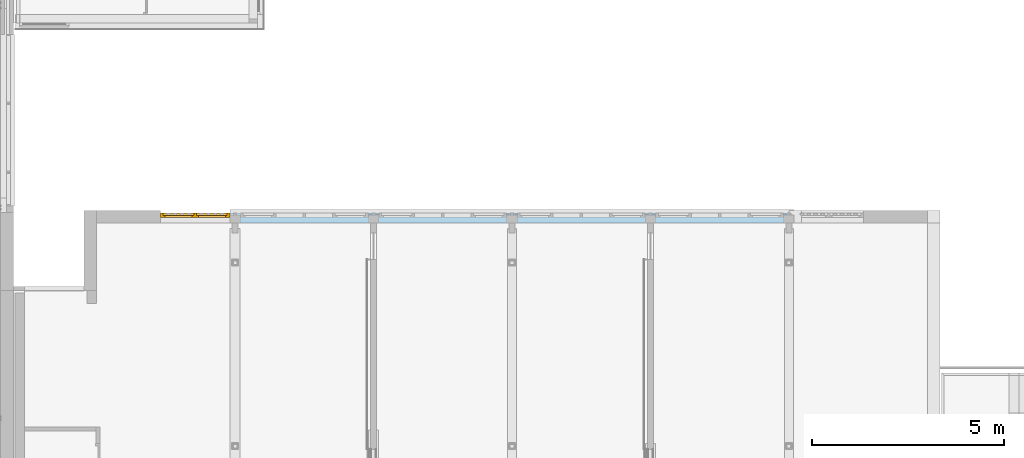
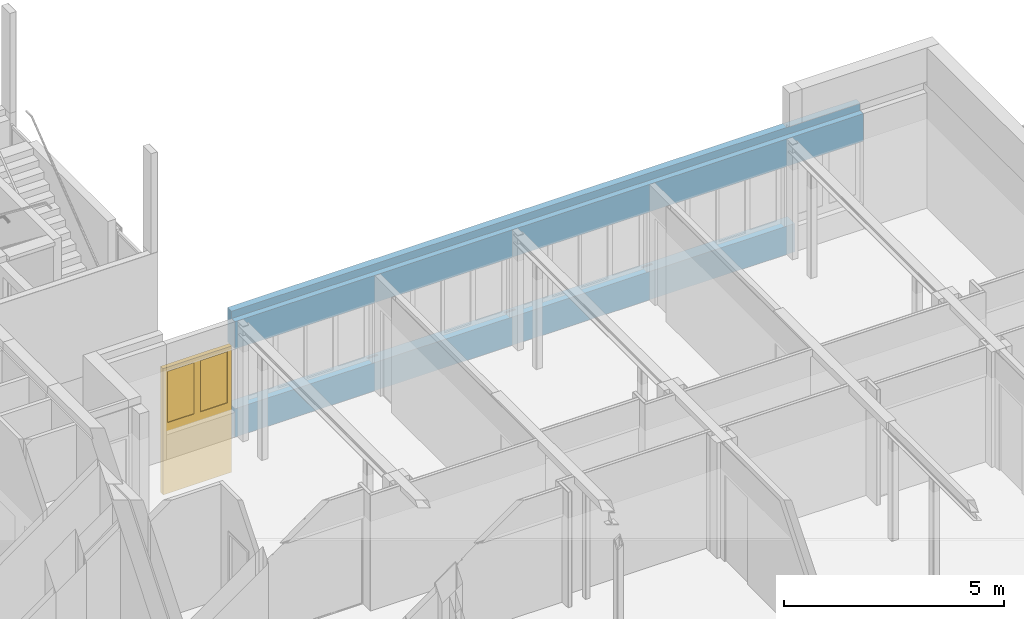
# One storey, part 43 of 117: 1 window, 6 openings, plus 1 element that does not belong to this part.
"""IFC2X3 building model written with IfcOpenShell, lengths in millimetres."""

from ifc_helpers import new_model, entity, si_unit, converted_unit, derived_unit, money_unit, direction, frame, origin_with_axes, place, context, subcontext, project, spatial, open_shell, faceted_brep, surface_model, material, type_object, element, fill, save


model = new_model("IFC2X3")

# Units and contexts
model_context = context("Model", 3, precision=0.01, world=origin_with_axes(), true_north=direction((0.0, 1.0)))
body_context = subcontext(model_context, "Body", "Model", "MODEL_VIEW")
ifc_project = project(units=[si_unit("LENGTHUNIT", "METRE", prefix="MILLI"), si_unit("AREAUNIT", "SQUARE_METRE"), si_unit("VOLUMEUNIT", "CUBIC_METRE"), converted_unit("PLANEANGLEUNIT", "DEGREE", entity("IfcPlaneAngleMeasure", 0.0174532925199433), si_unit("PLANEANGLEUNIT", "RADIAN"), dimensions=[0, 0, 0, 0, 0, 0, 0]), money_unit("EUR"), converted_unit("TIMEUNIT", "Year", entity("IfcTimeMeasure", 31557600.0), si_unit("TIMEUNIT", "SECOND"), dimensions=[0, 0, 1, 0, 0, 0, 0]), si_unit("MASSUNIT", "GRAM", prefix="KILO"), si_unit("THERMODYNAMICTEMPERATUREUNIT", "DEGREE_CELSIUS"), si_unit("LUMINOUSINTENSITYUNIT", "LUMEN"), si_unit("ENERGYUNIT", "JOULE", prefix="MEGA"), derived_unit("THERMALCONDUCTANCEUNIT", [(si_unit("POWERUNIT", "WATT"), 1), (si_unit("LENGTHUNIT", "METRE"), -1), (si_unit("THERMODYNAMICTEMPERATUREUNIT", "KELVIN"), -1)]), derived_unit("SPECIFICHEATCAPACITYUNIT", [(si_unit("ENERGYUNIT", "JOULE"), 1), (si_unit("MASSUNIT", "GRAM", prefix="KILO"), -1), (si_unit("THERMODYNAMICTEMPERATUREUNIT", "KELVIN"), -1)]), derived_unit("MASSDENSITYUNIT", [(si_unit("MASSUNIT", "GRAM", prefix="KILO"), 1), (si_unit("VOLUMEUNIT", "CUBIC_METRE"), -1)])], contexts=[model_context])

# Site, building, storey
site_placement = place(None, origin_with_axes())
site = spatial("IfcSite", under=ifc_project, at=site_placement, Name="Site", CompositionType="ELEMENT")
building_placement = place(site_placement, origin_with_axes())
building = spatial("IfcBuilding", under=site, at=building_placement, Name="Naam gebouw", CompositionType="ELEMENT")
storey_placement = place(building_placement, frame((0.0, 0.0, 4150.0), z_axis=(0.0, 0.0, 1.0), x_axis=(1.0, 0.0, 0.0)))
storey = spatial("IfcBuildingStorey", under=building, at=storey_placement, Name="1e verdieping N", CompositionType="ELEMENT", Elevation=4150.0)

# Wall, openings, window
ifc_material = material(Name="ALG - CONSTRUCTIEF")
wall_type = type_object("IfcWallType", Name="ALG - CONSTRUCTIEF 330", PredefinedType="NOTDEFINED")
wall_placement = place(storey_placement, frame((52337.49999999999, 27505.91242510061, -99.99999999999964), z_axis=(0.0, 0.0, 1.0), x_axis=(-1.0, 0.0, 0.0)))
wall = element("IfcWall", 1, at=wall_placement, inside=storey, type_object=wall_type, material=ifc_material, Name="_Wand-x", context=body_context, shape_type="Brep", body=[
    faceted_brep([(1799.999999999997, -216.0000000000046, 883.0000000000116), (1799.999999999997, -259.999999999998, 883.0000000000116), (2075.00000000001, -259.999999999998, 883.0000000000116), (2075.00000000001, -216.0000000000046, 883.0000000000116), (1799.999999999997, 0.0, 883.0000000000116), (1799.999999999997, 0.0, 786.5000000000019), (1799.999999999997, -146.0000000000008, 786.5000000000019), (1799.999999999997, -145.9999999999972, 99.99999999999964), (1799.999999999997, -145.9999999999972, 0.0), (1799.999999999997, -259.999999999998, 0.0), (1799.999999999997, -329.9999999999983, 0.0), (1799.999999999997, -329.9999999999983, 883.0000000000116), (16475.0, -329.9999999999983, 883.0000000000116), (16475.0, -259.999999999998, 883.0000000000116), (16200.0, -259.999999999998, 883.0000000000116), (16200.0, -216.0000000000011, 883.0000000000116), (16474.99999999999, -216.0000000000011, 883.0000000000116), (16474.99999999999, 0.0, 883.0000000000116), (5675.000000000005, -259.999999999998, 883.0000000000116), (5399.999999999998, -259.999999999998, 883.0000000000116), (5399.999999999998, -216.0000000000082, 883.0000000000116), (5675.000000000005, -216.0000000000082, 882.9999999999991), (9275.000000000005, -259.9999999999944, 883.0000000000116), (9000.0, -259.9999999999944, 883.0000000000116), (9000.0, -216.0000000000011, 882.9999999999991), (9275.000000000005, -216.0000000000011, 882.9999999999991), (12875.00000000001, -259.999999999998, 883.0000000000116), (12599.99999999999, -259.999999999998, 883.0000000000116), (12599.99999999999, -216.0000000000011, 883.0000000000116), (12875.00000000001, -216.0000000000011, 883.0000000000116), (16475.0, 0.0, 786.5000000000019), (16475.0, 0.0, 99.99999999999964), (1799.999999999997, 0.0, 99.99999999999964), (16475.0, -145.9999999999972, 99.99999999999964), (16475.0, -145.9999999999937, 0.0), (16475.0, -329.9999999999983, 0.0), (16475.0, -145.9999999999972, 786.5000000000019)], [[[0, 1, 2, 3]], [[1, 0, 4, 5, 6, 7, 8, 9, 10, 11]], [[4, 0, 3, 2, 1, 11, 12, 13, 14, 15, 16, 17], [18, 19, 20, 21], [22, 23, 24, 25], [26, 27, 28, 29]], [[5, 4, 17, 30, 31, 32]], [[6, 5, 32, 7]], [[8, 7, 33, 34]], [[9, 8, 34, 35, 10]], [[10, 35, 12, 11]], [[16, 13, 12, 35, 34, 33, 36, 30, 17]], [[14, 13, 16, 15]], [[19, 18, 21, 20]], [[23, 22, 25, 24]], [[27, 26, 29, 28]], [[36, 33, 31, 30]], [[7, 32, 31, 33]]]),
    faceted_brep([(0.0, 0.0, 2539.999999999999), (0.0, -259.999999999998, 2539.999999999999), (0.0, -329.9999999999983, 2539.999999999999), (0.0, -329.9999999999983, 3500.0), (0.0, -145.5905537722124, 3500.0), (0.0, -145.5905537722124, 3300.0), (0.0, 0.0, 3300.0), (1799.999999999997, 0.0, 2539.999999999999), (16474.99999999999, 0.0, 2539.999999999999), (16475.0, -145.9999999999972, 2539.999999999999), (16474.99999999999, -216.0000000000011, 2539.999999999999), (16200.0, -216.0000000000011, 2539.999999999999), (16200.0, -259.999999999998, 2539.999999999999), (16475.0, -259.999999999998, 2539.999999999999), (16475.0, -329.9999999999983, 2539.999999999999), (5399.999999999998, -216.0000000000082, 2539.999999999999), (5399.999999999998, -259.999999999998, 2539.999999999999), (5675.000000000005, -259.999999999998, 2539.999999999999), (5675.000000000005, -216.0000000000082, 2539.999999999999), (9000.0, -259.9999999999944, 2539.999999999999), (9275.000000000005, -259.9999999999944, 2539.999999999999), (9275.000000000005, -216.0000000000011, 2539.999999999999), (9000.0, -216.0000000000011, 2539.999999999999), (12599.99999999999, -259.999999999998, 2539.999999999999), (12875.00000000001, -259.999999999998, 2539.999999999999), (12875.00000000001, -216.0000000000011, 2539.999999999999), (12599.99999999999, -216.0000000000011, 2539.999999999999), (1799.999999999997, -216.0000000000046, 2539.999999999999), (1799.999999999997, -259.999999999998, 2539.999999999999), (2075.00000000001, -259.999999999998, 2539.999999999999), (2075.00000000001, -216.0000000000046, 2539.999999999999), (16475.0, -329.9999999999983, 3500.0), (16475.0, -146.0000000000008, 3500.0), (16475.0, -146.0000000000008, 3300.0), (16475.0, 0.0, 3300.0)], [[[0, 1, 2, 3, 4, 5, 6]], [[7, 8, 9, 10, 11, 12, 13, 14, 2, 1, 0], [15, 16, 17, 18], [19, 20, 21, 22], [23, 24, 25, 26], [27, 28, 29, 30]], [[14, 31, 3, 2]], [[4, 3, 31, 32]], [[5, 4, 32, 33]], [[6, 5, 33, 34]], [[7, 0, 6, 34, 8]], [[33, 9, 8, 34]], [[33, 32, 31, 14, 13, 10, 9]], [[13, 12, 11, 10]], [[16, 15, 18, 17]], [[20, 19, 22, 21]], [[24, 23, 26, 25]], [[28, 27, 30, 29]]]),
])
opening_1_placement = place(wall_placement, frame((3737.499999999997, 0.0, 883.0000000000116), z_axis=(0.0, 0.0, 1.0), x_axis=(1.0, 0.0, 0.0)))
element("IfcOpeningElement", 2, at=opening_1_placement, cuts=wall, Name="_Merk-038", context=body_context, shape_type="Brep", body=[
    faceted_brep([(1662.500000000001, -259.999999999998, 0.0), (1662.500000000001, -259.999999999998, 1656.999999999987), (1662.500000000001, -331.0000000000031, 1656.999999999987), (1662.500000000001, -331.0000000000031, 0.0), (1662.500000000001, 1.000000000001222, 0.0), (1662.500000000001, 1.000000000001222, 1656.999999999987), (-1937.5, -259.999999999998, 1656.999999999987), (-1937.5, -331.0000000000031, 1656.999999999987), (-1937.5, 1.000000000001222, 1656.999999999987), (-1937.5, -331.0000000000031, 0.0), (-1937.5, -259.999999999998, 0.0), (-1937.5, 1.000000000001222, 0.0)], [[[0, 1, 2, 3]], [[1, 0, 4, 5]], [[6, 7, 2, 1, 5, 8]], [[7, 9, 3, 2]], [[0, 3, 9, 10, 11, 4]], [[5, 4, 11, 8]], [[6, 10, 9, 7]], [[10, 6, 8, 11]]]),
])
opening_2_placement = place(wall_placement, frame((10937.5, 0.0, 883.0000000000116), z_axis=(0.0, 0.0, 1.0), x_axis=(1.0, 0.0, 0.0)))
element("IfcOpeningElement", 3, at=opening_2_placement, cuts=wall, Name="_Merk-038", context=body_context, shape_type="Brep", body=[
    faceted_brep([(1662.500000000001, -259.9999999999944, 0.0), (1662.500000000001, -259.9999999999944, 1656.999999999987), (1662.500000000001, -330.9999999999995, 1656.999999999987), (1662.500000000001, -330.9999999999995, 0.0), (1662.500000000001, 1.000000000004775, 0.0), (1662.500000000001, 1.000000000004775, 1656.999999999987), (-1937.5, -259.9999999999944, 1656.999999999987), (-1937.5, -330.9999999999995, 1656.999999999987), (-1937.5, 1.000000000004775, 1656.999999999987), (-1937.5, -330.9999999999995, 0.0), (-1937.5, -259.9999999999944, 0.0), (-1937.5, 1.000000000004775, 0.0)], [[[0, 1, 2, 3]], [[1, 0, 4, 5]], [[6, 7, 2, 1, 5, 8]], [[7, 9, 3, 2]], [[0, 3, 9, 10, 11, 4]], [[5, 4, 11, 8]], [[6, 10, 9, 7]], [[10, 6, 8, 11]]]),
])
opening_3_placement = place(wall_placement, frame((14537.49999999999, 0.0, 883.0000000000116), z_axis=(0.0, 0.0, 1.0), x_axis=(1.0, 0.0, 0.0)))
element("IfcOpeningElement", 4, at=opening_3_placement, cuts=wall, Name="_Merk-038", context=body_context, shape_type="Brep", body=[
    faceted_brep([(1937.5, -259.999999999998, 0.0), (1937.5, -259.999999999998, 1656.999999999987), (1937.5, -330.9999999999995, 1656.999999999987), (1937.5, -330.9999999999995, 0.0), (1937.5, 1.000000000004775, 0.0), (1937.5, 1.000000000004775, 1656.999999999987), (-1937.5, -259.999999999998, 1656.999999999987), (-1937.5, -330.9999999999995, 1656.999999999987), (-1937.5, 1.000000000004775, 1656.999999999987), (-1937.5, -330.9999999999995, 0.0), (-1937.5, -259.999999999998, 0.0), (-1937.5, 1.000000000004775, 0.0)], [[[0, 1, 2, 3]], [[1, 0, 4, 5]], [[6, 7, 2, 1, 5, 8]], [[7, 9, 3, 2]], [[0, 3, 9, 10, 11, 4]], [[5, 4, 11, 8]], [[6, 10, 9, 7]], [[10, 6, 8, 11]]]),
])
opening_4_placement = place(wall_placement, frame((7337.499999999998, 0.0, 883.0000000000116), z_axis=(0.0, 0.0, 1.0), x_axis=(1.0, 0.0, 0.0)))
element("IfcOpeningElement", 5, at=opening_4_placement, cuts=wall, Name="_Merk-038", context=body_context, shape_type="Brep", body=[
    faceted_brep([(1662.500000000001, -259.999999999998, 0.0), (1662.500000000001, -259.999999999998, 1656.999999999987), (1662.500000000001, -331.0000000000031, 1656.999999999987), (1662.500000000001, -331.0000000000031, 0.0), (1662.500000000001, 1.000000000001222, 0.0), (1662.500000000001, 1.000000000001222, 1656.999999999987), (-1937.5, -260.0000000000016, 1656.999999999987), (-1937.5, -331.0000000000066, 1656.999999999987), (-1937.5, 0.9999999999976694, 1656.999999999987), (-1937.5, -331.0000000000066, 0.0), (-1937.5, -260.0000000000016, 0.0), (-1937.5, 0.9999999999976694, 0.0)], [[[0, 1, 2, 3]], [[1, 0, 4, 5]], [[6, 7, 2, 1, 5, 8]], [[7, 9, 3, 2]], [[0, 3, 9, 10, 11, 4]], [[5, 4, 11, 8]], [[6, 10, 9, 7]], [[10, 6, 8, 11]]]),
])
opening_5_placement = place(wall_placement, frame((17375.0, 0.0, -960.0000000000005), z_axis=(0.0, 0.0, 1.0), x_axis=(1.0, 0.0, 0.0)))
opening_5 = element("IfcOpeningElement", 6, at=opening_5_placement, cuts=wall, Name="_Merk-037", context=body_context, shape_type="Brep", body=[
    faceted_brep([(899.9999999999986, -259.999999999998, 0.0), (899.9999999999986, -259.999999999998, 4500.0), (899.9999999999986, -330.9999999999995, 4500.0), (899.9999999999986, -330.9999999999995, 0.0), (899.9999999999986, 1.000000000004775, 0.0), (899.9999999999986, 1.000000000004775, 4500.0), (-899.9999999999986, -259.999999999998, 4500.0), (-899.9999999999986, -330.9999999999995, 4500.0), (-899.9999999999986, 1.000000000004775, 4500.0), (-899.9999999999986, -330.9999999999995, 0.0), (-899.9999999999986, -259.999999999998, 0.0), (-899.9999999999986, 1.000000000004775, 0.0)], [[[0, 1, 2, 3]], [[1, 0, 4, 5]], [[6, 7, 2, 1, 5, 8]], [[7, 9, 3, 2]], [[0, 3, 9, 10, 11, 4]], [[5, 4, 11, 8]], [[6, 10, 9, 7]], [[10, 6, 8, 11]]]),
])
opening_6_placement = place(wall_placement, frame((899.9999999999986, 0.0, -960.0000000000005), z_axis=(0.0, 0.0, 1.0), x_axis=(1.0, 0.0, 0.0)))
element("IfcOpeningElement", 7, at=opening_6_placement, cuts=wall, Name="_Merk-037", context=body_context, shape_type="Brep", body=[
    faceted_brep([(899.9999999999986, -259.999999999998, 0.0), (899.9999999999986, -259.999999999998, 3500.0), (899.9999999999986, -331.0000000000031, 3500.0), (899.9999999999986, -331.0000000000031, 0.0), (899.9999999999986, 1.000000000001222, 0.0), (899.9999999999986, 1.000000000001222, 3500.0), (-899.9999999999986, -259.999999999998, 3500.0), (-899.9999999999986, -331.0000000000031, 3500.0), (-899.9999999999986, 1.000000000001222, 3500.0), (-899.9999999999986, -331.0000000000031, 0.0), (-899.9999999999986, -259.999999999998, 0.0), (-899.9999999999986, 1.000000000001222, 0.0)], [[[0, 1, 2, 3]], [[1, 0, 4, 5]], [[6, 7, 2, 1, 5, 8]], [[7, 9, 3, 2]], [[0, 3, 9, 10, 11, 4]], [[5, 4, 11, 8]], [[6, 10, 9, 7]], [[10, 6, 8, 11]]]),
])
window_style = type_object("IfcWindowStyle", Name="R2 bl ol 26", ConstructionType="NOTDEFINED", OperationType="USERDEFINED", ParameterTakesPrecedence=False, Sizeable=False)
window_placement = place(opening_5_placement, frame((-899.9999999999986, 0.0, 0.0), z_axis=(0.0, 0.0, 1.0), x_axis=(1.0, 0.0, 0.0)))
window = element("IfcWindow", 8, at=window_placement, inside=storey, type_object=window_style, Name="_Merk-037", ObjectType="WINDOW", OverallHeight=3500.0, OverallWidth=1800.0, context=body_context, shape_type="SurfaceModel", body=[
    faceted_brep([(1750.0, -145.9999999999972, 3433.0), (1750.0, -199.9999999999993, 3433.0), (1732.999999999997, -199.9999999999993, 3433.0), (1732.999999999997, -259.999999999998, 3433.0), (1799.999999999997, -259.999999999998, 3433.0), (1799.999999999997, -145.9999999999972, 3433.0), (1750.0, -145.9999999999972, 1893.000000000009), (1750.0, -199.9999999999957, 1893.000000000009), (1732.999999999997, -199.9999999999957, 1910.000000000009), (1732.999999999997, -199.9999999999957, 1893.000000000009), (1732.999999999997, -259.999999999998, 1910.000000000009), (1732.999999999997, -259.999999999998, 1843.000000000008), (1732.999999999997, -259.999999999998, 66.99999999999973), (1799.999999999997, -259.999999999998, 66.99999999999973), (1799.999999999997, -145.9999999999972, 66.99999999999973), (1732.999999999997, -145.9999999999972, 66.99999999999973), (1732.999999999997, -145.9999999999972, 1843.000000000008), (1732.999999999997, -145.9999999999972, 1893.000000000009)], [[[0, 1, 2, 3, 4, 5]], [[1, 0, 6, 7]], [[8, 2, 1, 7, 9]], [[2, 8, 10, 3]], [[10, 11, 12, 13, 4, 3]], [[5, 4, 13, 14]], [[6, 0, 5, 14, 15, 16, 17]], [[6, 17, 9, 7]], [[9, 17, 16, 11, 10, 8]], [[15, 12, 11, 16]], [[14, 13, 12, 15]]]),
    faceted_brep([(67.00000000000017, -199.9999999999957, 3433.0), (49.99999999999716, -199.9999999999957, 3433.0), (49.99999999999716, -145.9999999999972, 3433.0), (0.0, -145.9999999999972, 3433.0), (0.0, -259.999999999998, 3433.0), (67.00000000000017, -259.999999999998, 3433.0), (67.00000000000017, -199.9999999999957, 1910.000000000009), (67.00000000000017, -199.9999999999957, 1893.000000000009), (49.99999999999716, -199.9999999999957, 1893.000000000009), (49.99999999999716, -145.9999999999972, 1893.000000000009), (67.00000000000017, -145.9999999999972, 1893.000000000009), (67.00000000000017, -145.9999999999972, 1843.000000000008), (67.00000000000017, -145.9999999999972, 66.99999999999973), (0.0, -145.9999999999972, 66.99999999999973), (0.0, -259.999999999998, 66.99999999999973), (67.00000000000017, -259.999999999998, 66.99999999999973), (67.00000000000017, -259.999999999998, 1843.000000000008), (67.00000000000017, -259.999999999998, 1910.000000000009)], [[[0, 1, 2, 3, 4, 5]], [[1, 0, 6, 7, 8]], [[9, 2, 1, 8]], [[9, 10, 11, 12, 13, 3, 2]], [[13, 14, 4, 3]], [[14, 15, 16, 17, 5, 4]], [[6, 0, 5, 17]], [[7, 6, 17, 16, 11, 10]], [[10, 9, 8, 7]], [[11, 16, 15, 12]], [[12, 15, 14, 13]]]),
    faceted_brep([(933.5000000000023, -199.9999999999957, 3433.0), (916.4999999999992, -199.9999999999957, 3433.0), (916.4999999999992, -145.9999999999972, 3433.0), (883.499999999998, -145.9999999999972, 3433.0), (883.499999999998, -199.9999999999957, 3433.0), (866.500000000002, -199.9999999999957, 3433.0), (866.500000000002, -259.999999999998, 3433.0), (933.5000000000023, -259.999999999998, 3433.0), (933.5000000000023, -199.9999999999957, 1910.000000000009), (933.4999999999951, -199.9999999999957, 1893.000000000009), (916.4999999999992, -199.9999999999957, 1893.000000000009), (916.4999999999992, -145.9999999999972, 1893.000000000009), (933.5000000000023, -145.9999999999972, 1893.000000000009), (933.5000000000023, -145.9999999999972, 1843.000000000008), (933.5000000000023, -145.9999999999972, 66.99999999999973), (866.500000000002, -145.9999999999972, 66.99999999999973), (866.500000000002, -145.9999999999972, 1843.000000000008), (866.500000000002, -145.9999999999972, 1893.000000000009), (883.499999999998, -145.9999999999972, 1893.000000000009), (883.499999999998, -199.9999999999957, 1893.000000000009), (866.500000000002, -199.9999999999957, 1910.000000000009), (866.500000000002, -199.9999999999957, 1893.000000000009), (866.500000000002, -259.999999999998, 1910.000000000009), (933.5000000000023, -259.999999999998, 1843.000000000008), (933.5000000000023, -259.999999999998, 1910.000000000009), (866.500000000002, -259.999999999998, 1843.000000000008), (866.500000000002, -259.999999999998, 66.99999999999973), (933.5000000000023, -259.999999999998, 66.99999999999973)], [[[0, 1, 2, 3, 4, 5, 6, 7]], [[1, 0, 8, 9, 10]], [[11, 2, 1, 10]], [[11, 12, 13, 14, 15, 16, 17, 18, 3, 2]], [[4, 3, 18, 19]], [[20, 5, 4, 19, 21]], [[5, 20, 22, 6]], [[23, 24, 7, 6, 22, 25, 26, 27]], [[8, 0, 7, 24]], [[9, 8, 24, 23, 13, 12]], [[12, 11, 10, 9]], [[13, 23, 27, 14]], [[14, 27, 26, 15]], [[15, 26, 25, 16]], [[21, 17, 16, 25, 22, 20]], [[18, 17, 21, 19]]]),
    faceted_brep([(866.500000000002, -199.9999999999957, 1910.000000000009), (67.00000000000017, -199.9999999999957, 1910.000000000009), (67.00000000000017, -259.999999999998, 1910.000000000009), (866.500000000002, -259.999999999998, 1910.000000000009), (67.00000000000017, -199.9999999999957, 1893.000000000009), (866.500000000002, -199.9999999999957, 1893.000000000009), (67.00000000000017, -145.9999999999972, 1893.000000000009), (67.00000000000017, -145.9999999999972, 1843.000000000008), (67.00000000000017, -259.999999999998, 1843.000000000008), (866.500000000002, -259.999999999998, 1843.000000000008), (866.500000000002, -145.9999999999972, 1843.000000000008), (866.500000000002, -145.9999999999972, 1893.000000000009)], [[[0, 1, 2, 3]], [[4, 1, 0, 5]], [[4, 6, 7, 8, 2, 1]], [[9, 3, 2, 8]], [[5, 0, 3, 9, 10, 11]], [[11, 6, 4, 5]], [[6, 11, 10, 7]], [[10, 9, 8, 7]]]),
    faceted_brep([(1732.999999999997, -199.9999999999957, 1910.000000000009), (933.5000000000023, -199.9999999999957, 1910.000000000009), (933.5000000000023, -259.999999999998, 1910.000000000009), (1732.999999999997, -259.999999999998, 1910.000000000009), (933.4999999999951, -199.9999999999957, 1893.000000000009), (1732.999999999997, -199.9999999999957, 1893.000000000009), (933.5000000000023, -145.9999999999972, 1893.000000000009), (933.5000000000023, -145.9999999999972, 1843.000000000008), (933.5000000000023, -259.999999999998, 1843.000000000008), (1732.999999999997, -259.999999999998, 1843.000000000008), (1732.999999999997, -145.9999999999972, 1843.000000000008), (1732.999999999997, -145.9999999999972, 1893.000000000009)], [[[0, 1, 2, 3]], [[4, 1, 0, 5]], [[4, 6, 7, 8, 2, 1]], [[2, 8, 9, 3]], [[5, 0, 3, 9, 10, 11]], [[11, 6, 4, 5]], [[6, 11, 10, 7]], [[10, 9, 8, 7]]]),
    faceted_brep([(1750.0, -145.9999999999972, 3433.0), (1750.0, -145.9999999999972, 3450.0), (916.4999999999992, -145.9999999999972, 3450.0), (916.4999999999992, -145.9999999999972, 3433.0), (883.499999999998, -145.9999999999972, 3433.0), (883.499999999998, -145.9999999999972, 3450.0), (49.99999999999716, -145.9999999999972, 3450.0), (49.99999999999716, -145.9999999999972, 3433.0), (0.0, -145.9999999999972, 3433.0), (0.0, -145.9999999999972, 3500.0), (1799.999999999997, -145.9999999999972, 3500.0), (1799.999999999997, -145.9999999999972, 3433.0), (1750.0, -199.9999999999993, 3433.0), (1750.0, -199.9999999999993, 3450.0), (916.4999999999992, -199.9999999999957, 3450.0), (916.4999999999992, -199.9999999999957, 3433.0), (933.5000000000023, -199.9999999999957, 3433.0), (933.5000000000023, -259.999999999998, 3433.0), (866.500000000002, -259.999999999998, 3433.0), (866.500000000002, -199.9999999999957, 3433.0), (883.499999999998, -199.9999999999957, 3433.0), (883.499999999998, -199.9999999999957, 3450.0), (49.99999999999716, -199.9999999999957, 3450.0), (49.99999999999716, -199.9999999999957, 3433.0), (67.00000000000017, -199.9999999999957, 3433.0), (67.00000000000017, -259.999999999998, 3433.0), (0.0, -259.999999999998, 3433.0), (0.0, -259.999999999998, 3500.0), (1799.999999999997, -259.999999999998, 3500.0), (1799.999999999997, -259.999999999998, 3433.0), (1732.999999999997, -259.999999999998, 3433.0), (1732.999999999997, -199.9999999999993, 3433.0)], [[[0, 1, 2, 3, 4, 5, 6, 7, 8, 9, 10, 11]], [[1, 0, 12, 13]], [[2, 1, 13, 14]], [[3, 2, 14, 15]], [[15, 16, 17, 18, 19, 20, 4, 3]], [[5, 4, 20, 21]], [[6, 5, 21, 22]], [[7, 6, 22, 23]], [[23, 24, 25, 26, 8, 7]], [[8, 26, 27, 9]], [[9, 27, 28, 10]], [[10, 28, 29, 11]], [[12, 0, 11, 29, 30, 31]], [[16, 15, 14, 13, 12, 31]], [[16, 31, 30, 17]], [[18, 17, 30, 29, 28, 27, 26, 25]], [[24, 19, 18, 25]], [[24, 23, 22, 21, 20, 19]]]),
    faceted_brep([(1732.999999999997, -259.999999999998, 67.00000000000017), (1799.999999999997, -259.999999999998, 67.00000000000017), (1799.999999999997, -145.9999999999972, 67.00000000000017), (1732.999999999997, -145.9999999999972, 67.00000000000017), (933.5000000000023, -259.999999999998, 67.00000000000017), (866.500000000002, -259.999999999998, 67.00000000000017), (67.00000000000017, -259.999999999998, 67.00000000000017), (0.0, -259.999999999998, 67.00000000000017), (0.0, -259.999999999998, 0.0), (1799.999999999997, -259.999999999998, 0.0), (1799.999999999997, -145.9999999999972, 0.0), (0.0, -145.9999999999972, 0.0), (0.0, -145.9999999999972, 67.00000000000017), (67.00000000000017, -145.9999999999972, 67.00000000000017), (866.500000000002, -145.9999999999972, 67.00000000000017), (933.5000000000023, -145.9999999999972, 67.00000000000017)], [[[0, 1, 2, 3]], [[0, 4, 5, 6, 7, 8, 9, 1]], [[1, 9, 10, 2]], [[3, 2, 10, 11, 12, 13, 14, 15]], [[4, 0, 3, 15]], [[5, 4, 15, 14]], [[6, 5, 14, 13]], [[7, 6, 13, 12]], [[8, 7, 12, 11]], [[9, 8, 11, 10]]]),
    faceted_brep([(1683.0, -199.9999999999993, 3383.0), (1750.0, -199.9999999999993, 3383.0), (1750.0, -145.9999999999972, 3383.0), (1683.0, -145.9999999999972, 3383.0), (1683.0, -199.9999999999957, 1960.000000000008), (1750.0, -199.9999999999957, 1960.000000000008), (1750.0, -145.9999999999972, 1960.000000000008), (1683.0, -145.9999999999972, 1960.000000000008)], [[[0, 1, 2, 3]], [[0, 4, 5, 1]], [[1, 5, 6, 2]], [[3, 2, 6, 7]], [[4, 0, 3, 7]], [[5, 4, 7, 6]]]),
    faceted_brep([(983.4999999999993, -199.9999999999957, 1960.000000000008), (916.4999999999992, -199.9999999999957, 1960.000000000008), (916.4999999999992, -145.9999999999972, 1960.000000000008), (983.4999999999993, -145.9999999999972, 1960.000000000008), (983.4999999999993, -199.9999999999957, 3383.0), (916.4999999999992, -199.9999999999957, 3383.0), (916.4999999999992, -145.9999999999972, 3383.0), (983.4999999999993, -145.9999999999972, 3383.0)], [[[0, 1, 2, 3]], [[0, 4, 5, 1]], [[1, 5, 6, 2]], [[3, 2, 6, 7]], [[4, 0, 3, 7]], [[5, 4, 7, 6]]]),
    faceted_brep([(916.4999999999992, -199.9999999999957, 1893.000000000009), (916.4999999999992, -199.9999999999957, 1960.000000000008), (916.4999999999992, -145.9999999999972, 1960.000000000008), (916.4999999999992, -145.9999999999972, 1893.000000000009), (1750.0, -199.9999999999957, 1893.000000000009), (1750.0, -199.9999999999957, 1960.000000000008), (1683.0, -199.9999999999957, 1960.000000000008), (983.4999999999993, -199.9999999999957, 1960.000000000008), (983.4999999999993, -145.9999999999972, 1960.000000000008), (1683.0, -145.9999999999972, 1960.000000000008), (1750.0, -145.9999999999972, 1960.000000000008), (1750.0, -145.9999999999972, 1893.000000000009)], [[[0, 1, 2, 3]], [[0, 4, 5, 6, 7, 1]], [[1, 7, 8, 2]], [[3, 2, 8, 9, 10, 11]], [[4, 0, 3, 11]], [[5, 4, 11, 10]], [[6, 5, 10, 9]], [[7, 6, 9, 8]]]),
    faceted_brep([(1750.0, -199.9999999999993, 3450.0), (1750.0, -199.9999999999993, 3383.0), (1750.0, -145.9999999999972, 3383.0), (1750.0, -145.9999999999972, 3450.0), (916.4999999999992, -199.9999999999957, 3450.0), (916.4999999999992, -199.9999999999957, 3383.0), (983.4999999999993, -199.9999999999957, 3383.0), (1683.0, -199.9999999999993, 3383.0), (1683.0, -145.9999999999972, 3383.0), (983.4999999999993, -145.9999999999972, 3383.0), (916.4999999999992, -145.9999999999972, 3383.0), (916.4999999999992, -145.9999999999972, 3450.0)], [[[0, 1, 2, 3]], [[0, 4, 5, 6, 7, 1]], [[1, 7, 8, 2]], [[3, 2, 8, 9, 10, 11]], [[4, 0, 3, 11]], [[5, 4, 11, 10]], [[6, 5, 10, 9]], [[7, 6, 9, 8]]]),
    surface_model("IfcShellBasedSurfaceModel", [(1683.0, -182.9999999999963, 1960.000000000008), (1683.0, -182.9999999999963, 3383.0), (983.4999999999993, -182.9999999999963, 3383.0), (983.4999999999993, -182.9999999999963, 1960.000000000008)], [open_shell([[[0, 1, 2, 3]]])]),
    surface_model("IfcShellBasedSurfaceModel", [(1683.0, -162.9999999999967, 1960.000000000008), (983.4999999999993, -162.9999999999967, 1960.000000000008), (983.4999999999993, -162.9999999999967, 3383.0), (1683.0, -162.9999999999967, 3383.0)], [open_shell([[[0, 1, 2, 3]]])]),
    faceted_brep([(816.4999999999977, -199.9999999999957, 3383.0), (883.499999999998, -199.9999999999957, 3383.0), (883.499999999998, -145.9999999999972, 3383.0), (816.4999999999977, -145.9999999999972, 3383.0), (816.4999999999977, -199.9999999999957, 1960.000000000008), (883.499999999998, -199.9999999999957, 1960.000000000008), (883.499999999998, -145.9999999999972, 1960.000000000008), (816.4999999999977, -145.9999999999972, 1960.000000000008)], [[[0, 1, 2, 3]], [[0, 4, 5, 1]], [[1, 5, 6, 2]], [[3, 2, 6, 7]], [[4, 0, 3, 7]], [[5, 4, 7, 6]]]),
    faceted_brep([(116.9999999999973, -199.9999999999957, 1960.000000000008), (49.99999999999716, -199.9999999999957, 1960.000000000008), (49.99999999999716, -145.9999999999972, 1960.000000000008), (116.9999999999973, -145.9999999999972, 1960.000000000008), (116.9999999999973, -199.9999999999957, 3383.0), (49.99999999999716, -199.9999999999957, 3383.0), (49.99999999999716, -145.9999999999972, 3383.0), (116.9999999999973, -145.9999999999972, 3383.0)], [[[0, 1, 2, 3]], [[0, 4, 5, 1]], [[1, 5, 6, 2]], [[3, 2, 6, 7]], [[4, 0, 3, 7]], [[5, 4, 7, 6]]]),
    faceted_brep([(49.99999999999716, -199.9999999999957, 1893.000000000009), (49.99999999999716, -199.9999999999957, 1960.000000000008), (49.99999999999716, -145.9999999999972, 1960.000000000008), (49.99999999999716, -145.9999999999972, 1893.000000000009), (883.499999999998, -199.9999999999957, 1893.000000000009), (883.499999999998, -199.9999999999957, 1960.000000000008), (816.4999999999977, -199.9999999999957, 1960.000000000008), (116.9999999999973, -199.9999999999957, 1960.000000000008), (116.9999999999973, -145.9999999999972, 1960.000000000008), (816.4999999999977, -145.9999999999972, 1960.000000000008), (883.499999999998, -145.9999999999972, 1960.000000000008), (883.499999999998, -145.9999999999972, 1893.000000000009)], [[[0, 1, 2, 3]], [[0, 4, 5, 6, 7, 1]], [[1, 7, 8, 2]], [[3, 2, 8, 9, 10, 11]], [[4, 0, 3, 11]], [[5, 4, 11, 10]], [[6, 5, 10, 9]], [[7, 6, 9, 8]]]),
    faceted_brep([(883.499999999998, -199.9999999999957, 3450.0), (883.499999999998, -199.9999999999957, 3383.0), (883.499999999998, -145.9999999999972, 3383.0), (883.499999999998, -145.9999999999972, 3450.0), (49.99999999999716, -199.9999999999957, 3450.0), (49.99999999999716, -199.9999999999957, 3383.0), (116.9999999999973, -199.9999999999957, 3383.0), (816.4999999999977, -199.9999999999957, 3383.0), (816.4999999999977, -145.9999999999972, 3383.0), (116.9999999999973, -145.9999999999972, 3383.0), (49.99999999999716, -145.9999999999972, 3383.0), (49.99999999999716, -145.9999999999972, 3450.0)], [[[0, 1, 2, 3]], [[0, 4, 5, 6, 7, 1]], [[1, 7, 8, 2]], [[3, 2, 8, 9, 10, 11]], [[4, 0, 3, 11]], [[5, 4, 11, 10]], [[6, 5, 10, 9]], [[7, 6, 9, 8]]]),
    surface_model("IfcShellBasedSurfaceModel", [(816.4999999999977, -182.9999999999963, 1960.000000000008), (816.4999999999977, -182.9999999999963, 3383.0), (116.9999999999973, -182.9999999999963, 3383.0), (116.9999999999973, -182.9999999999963, 1960.000000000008)], [open_shell([[[0, 1, 2, 3]]])]),
    surface_model("IfcShellBasedSurfaceModel", [(816.4999999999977, -162.9999999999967, 1960.000000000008), (116.9999999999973, -162.9999999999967, 1960.000000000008), (116.9999999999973, -162.9999999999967, 3383.0), (816.4999999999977, -162.9999999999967, 3383.0)], [open_shell([[[0, 1, 2, 3]]])]),
    faceted_brep([(1732.999999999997, -199.9999999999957, 67.00000000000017), (933.4999999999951, -199.9999999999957, 67.00000000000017), (933.5000000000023, -145.9999999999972, 67.00000000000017), (1732.999999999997, -145.9999999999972, 67.00000000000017), (1732.999999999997, -199.9999999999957, 1843.000000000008), (933.4999999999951, -199.9999999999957, 1843.000000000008), (933.5000000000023, -145.9999999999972, 1843.000000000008), (1732.999999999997, -145.9999999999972, 1843.000000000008)], [[[0, 1, 2, 3]], [[0, 4, 5, 1]], [[1, 5, 6, 2]], [[3, 2, 6, 7]], [[4, 0, 3, 7]], [[5, 4, 7, 6]]]),
    faceted_brep([(866.500000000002, -199.9999999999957, 67.00000000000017), (67.00000000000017, -199.9999999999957, 67.00000000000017), (67.00000000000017, -145.9999999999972, 67.00000000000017), (866.500000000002, -145.9999999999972, 67.00000000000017), (866.500000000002, -199.9999999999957, 1843.000000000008), (67.00000000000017, -199.9999999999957, 1843.000000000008), (67.00000000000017, -145.9999999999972, 1843.000000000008), (866.500000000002, -145.9999999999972, 1843.000000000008)], [[[0, 1, 2, 3]], [[0, 4, 5, 1]], [[1, 5, 6, 2]], [[3, 2, 6, 7]], [[4, 0, 3, 7]], [[5, 4, 7, 6]]]),
])
fill(opening_5, window)

save(model, "model.ifc")
